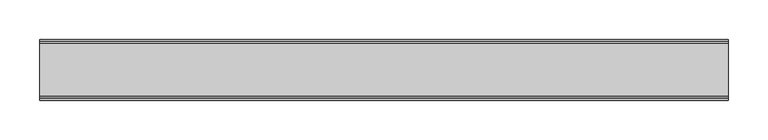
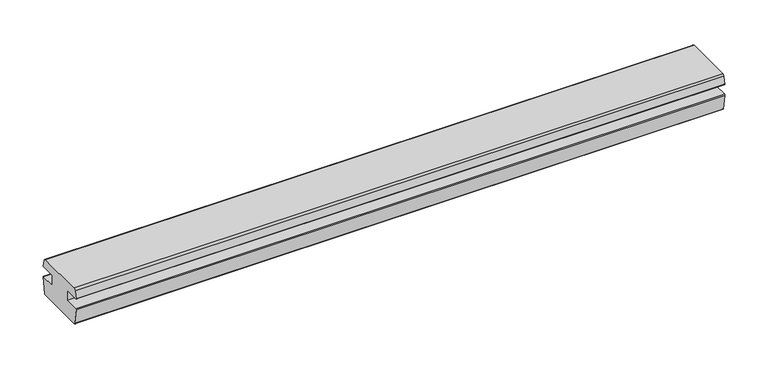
"""IFC4 building model written with IfcOpenShell, lengths in millimetres: proxy geometry, Weiku - Montante - Divisor fixo 02.2.01.041 : Weiku - Montante - Divisor fixo 02.2.01.041."""

from ifc_helpers import new_model, si_unit, point, frame, frame_2d, origin, place, context, project, spatial, polyline, circle_curve, trimmed, segment, composite_curve, outline, extrude, source, transform, mapped, element, save


def generic_models_488c0f00(model_context):
    return source(origin(), model_context, "Body", "SweptSolid", [
        extrude(outline(composite_curve([segment(polyline([(-33.0007245, 50.0), (33.0007245, 50.0)]), True, "CONTINUOUS"), segment(trimmed(circle_curve(frame_2d((33.0007245, 47.0)), 3.0), [point((33.0007245, 50.0))], [point((35.898502, 47.7764571))], False, "CARTESIAN"), True, "CONTINUOUS"), segment(polyline([(35.898502, 47.7764571), (38.4496907, 38.2552914)]), True, "CONTINUOUS"), segment(trimmed(circle_curve(frame_2d((37.8701352, 38.1)), 0.6), [point((38.4496907, 38.2552914))], [point((37.8701352, 37.5))], False, "CARTESIAN"), True, "CONTINUOUS"), segment(polyline([(37.8701352, 37.5), (17.5004577, 37.5), (17.5004577, 23.5), (37.5139562, 23.5)]), True, "CONTINUOUS"), segment(trimmed(circle_curve(frame_2d((37.5139562, 22.5)), 1.0), [point((37.5139562, 23.5))], [point((38.5006041, 22.3371317))], False, "CARTESIAN"), True, "CONTINUOUS"), segment(polyline([(38.5006041, 22.3371317), (34.9515483, 0.8371317)]), True, "CONTINUOUS"), segment(trimmed(circle_curve(frame_2d((33.9649005, 1.0)), 1.0), [point((34.9515483, 0.8371317))], [point((33.9649005, 0.0))], False, "CARTESIAN"), True, "CONTINUOUS"), segment(polyline([(33.9649005, 0.0), (-33.9649005, 0.0)]), True, "CONTINUOUS"), segment(trimmed(circle_curve(frame_2d((-33.9649005, 1.0)), 1.0), [point((-33.9649005, 0.0))], [point((-34.9515483, 0.8371317))], False, "CARTESIAN"), True, "CONTINUOUS"), segment(polyline([(-34.9515483, 0.8371317), (-38.5006041, 22.3371317)]), True, "CONTINUOUS"), segment(trimmed(circle_curve(frame_2d((-37.5139562, 22.5)), 1.0), [point((-38.5006041, 22.3371317))], [point((-37.5139562, 23.5))], False, "CARTESIAN"), True, "CONTINUOUS"), segment(polyline([(-37.5139562, 23.5), (-17.5004577, 23.5), (-17.5004577, 37.5), (-37.8701352, 37.5)]), True, "CONTINUOUS"), segment(trimmed(circle_curve(frame_2d((-37.8701352, 38.1)), 0.6), [point((-37.8701352, 37.5))], [point((-38.4496907, 38.2552914))], False, "CARTESIAN"), True, "CONTINUOUS"), segment(polyline([(-38.4496907, 38.2552914), (-35.898502, 47.7764571)]), True, "CONTINUOUS"), segment(trimmed(circle_curve(frame_2d((-33.0007245, 47.0)), 3.0), [point((-35.898502, 47.7764571))], [point((-33.0007245, 50.0))], False, "CARTESIAN"), True, "CONTINUOUS")], self_intersect=False)), frame((-435.0, 0.0, 0.0), z_axis=(1.0, 0.0, 0.0), x_axis=(0.0, 1.0, 0.0)), (0.0, 0.0, 1.0), 870.0),
    ])


if __name__ == "__main__":
    model = new_model("IFC4")
    model_context = context("Model", 3, world=origin())
    ifc_project = project(units=[si_unit("LENGTHUNIT", "METRE", prefix="MILLI")], contexts=[model_context])
    site = spatial("IfcSite", under=ifc_project)
    building = spatial("IfcBuilding", under=site)
    placement = place(None, origin())
    generic_models_shape = generic_models_488c0f00(model_context)
    element("IfcBuildingElementProxy", 1, Name="Weiku - Montante - Divisor fixo 02.2.01.041 : Weiku - Montante - Divisor fixo 02.2.01.041", ObjectType="Weiku - Montante - Divisor fixo 02.2.01.041 : Weiku - Montante - Divisor fixo 02.2.01.041", at=placement, inside=building, context=model_context, shape_type="MappedRepresentation", body=[
        mapped(generic_models_shape, transform((0.0, 0.0, 0.0), x_axis=(1.0, 0.0, 0.0), y_axis=(0.0, 1.0, 0.0), z_axis=(0.0, 0.0, 1.0))),
    ])
    save(model, "model.ifc")
